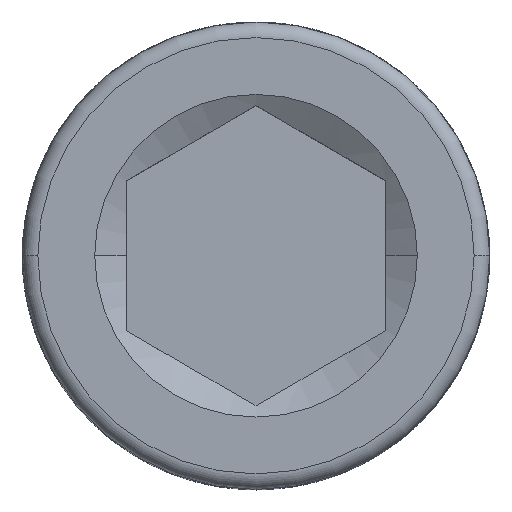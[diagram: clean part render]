
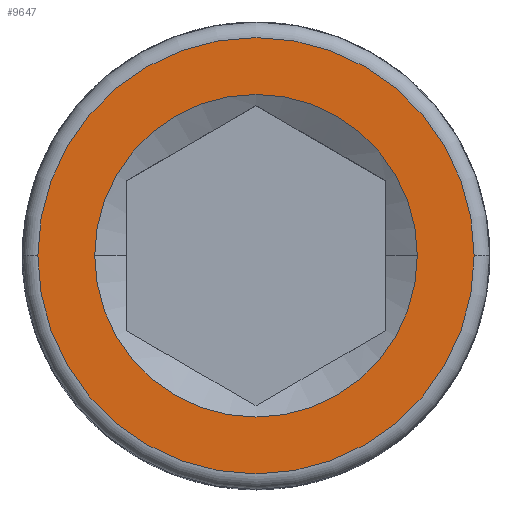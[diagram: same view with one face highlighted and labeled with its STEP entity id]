
A CAD part, top view. The second image highlights one B-rep face of the part: STEP entity #9647.
In plain terms, the highlighted planar face has unit normal (0, 0, 1).
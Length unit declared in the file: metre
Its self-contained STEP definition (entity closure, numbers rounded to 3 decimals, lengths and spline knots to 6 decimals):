
#26 = CARTESIAN_POINT ( 'NONE',  ( 0., 0., 0.055563 ) ) ;
#92 = DIRECTION ( 'NONE',  ( 1., 0., 0. ) ) ;
#309 = CARTESIAN_POINT ( 'NONE',  ( -0.00493, 0., 0.055563 ) ) ;
#501 = CARTESIAN_POINT ( 'NONE',  ( 0.006667, 0., 0.055563 ) ) ;
#1113 = CARTESIAN_POINT ( 'NONE',  ( 0.00493, 0., 0.055563 ) ) ;
#1601 = CIRCLE ( 'NONE', #6507, 0.00493 ) ;
#1748 = AXIS2_PLACEMENT_3D ( 'NONE', #15677, #3254, #8777 ) ;
#2188 = EDGE_CURVE ( 'NONE', #12967, #15187, #15655, .T. ) ;
#2652 = DIRECTION ( 'NONE',  ( 1., 0., 0. ) ) ;
#3254 = DIRECTION ( 'NONE',  ( 0., 0., 1. ) ) ;
#4169 = CARTESIAN_POINT ( 'NONE',  ( 0., 0., 0.055563 ) ) ;
#4225 = EDGE_LOOP ( 'NONE', ( #17810, #4870 ) ) ;
#4870 = ORIENTED_EDGE ( 'NONE', *, *, #17401, .F. ) ;
#6400 = ORIENTED_EDGE ( 'NONE', *, *, #15509, .F. ) ;
#6507 = AXIS2_PLACEMENT_3D ( 'NONE', #4169, #8144, #92 ) ;
#6546 = FACE_BOUND ( 'NONE', #4225, .T. ) ;
#6593 = VERTEX_POINT ( 'NONE', #15444 ) ;
#6717 = DIRECTION ( 'NONE',  ( -1., 0., 0. ) ) ;
#7062 = AXIS2_PLACEMENT_3D ( 'NONE', #8431, #9534, #6717 ) ;
#7072 = EDGE_LOOP ( 'NONE', ( #8985, #6400 ) ) ;
#8144 = DIRECTION ( 'NONE',  ( 0., 0., 1. ) ) ;
#8431 = CARTESIAN_POINT ( 'NONE',  ( 0., 0., 0.055563 ) ) ;
#8777 = DIRECTION ( 'NONE',  ( 1., 0., 0. ) ) ;
#8985 = ORIENTED_EDGE ( 'NONE', *, *, #10505, .F. ) ;
#9267 = FACE_OUTER_BOUND ( 'NONE', #7072, .T. ) ;
#9534 = DIRECTION ( 'NONE',  ( 0., 0., -1. ) ) ;
#9541 = DIRECTION ( 'NONE',  ( 0., 0., 1. ) ) ;
#9575 = VERTEX_POINT ( 'NONE', #501 ) ;
#9647 = ADVANCED_FACE ( 'NONE', ( #6546, #9267 ), #16090, .T. ) ;
#9730 = DIRECTION ( 'NONE',  ( 0., 0., -1. ) ) ;
#10505 = EDGE_CURVE ( 'NONE', #6593, #9575, #17644, .T. ) ;
#12967 = VERTEX_POINT ( 'NONE', #1113 ) ;
#13873 = AXIS2_PLACEMENT_3D ( 'NONE', #26, #9730, #15176 ) ;
#15176 = DIRECTION ( 'NONE',  ( -1., 0., 0. ) ) ;
#15187 = VERTEX_POINT ( 'NONE', #309 ) ;
#15299 = AXIS2_PLACEMENT_3D ( 'NONE', #17620, #9541, #2652 ) ;
#15444 = CARTESIAN_POINT ( 'NONE',  ( -0.006667, 0., 0.055563 ) ) ;
#15509 = EDGE_CURVE ( 'NONE', #9575, #6593, #17492, .T. ) ;
#15655 = CIRCLE ( 'NONE', #1748, 0.00493 ) ;
#15677 = CARTESIAN_POINT ( 'NONE',  ( 0., 0., 0.055563 ) ) ;
#16090 = PLANE ( 'NONE',  #15299 ) ;
#17401 = EDGE_CURVE ( 'NONE', #15187, #12967, #1601, .T. ) ;
#17492 = CIRCLE ( 'NONE', #7062, 0.006667 ) ;
#17620 = CARTESIAN_POINT ( 'NONE',  ( 0., 0.006667, 0.055563 ) ) ;
#17644 = CIRCLE ( 'NONE', #13873, 0.006667 ) ;
#17810 = ORIENTED_EDGE ( 'NONE', *, *, #2188, .F. ) ;
